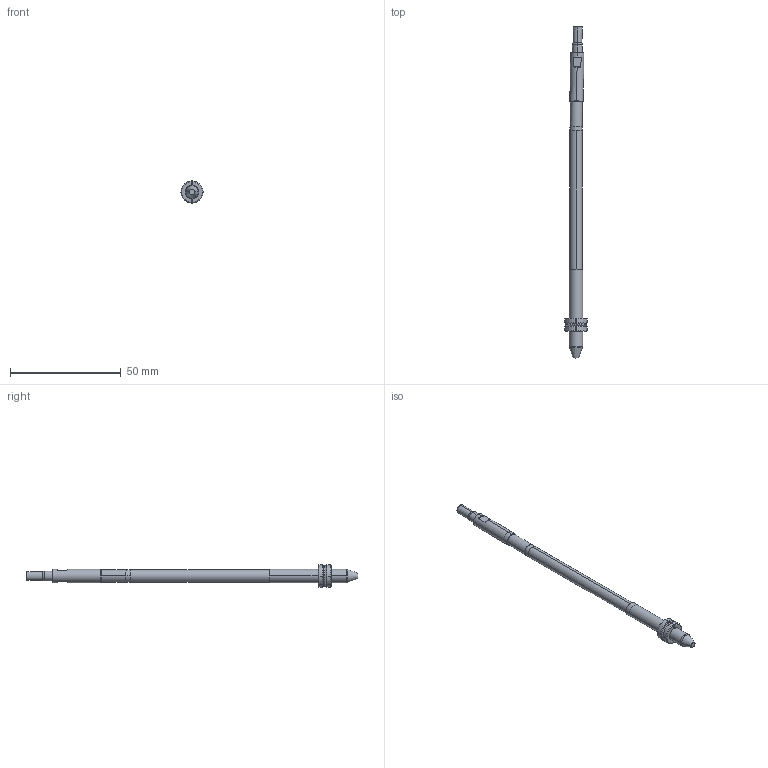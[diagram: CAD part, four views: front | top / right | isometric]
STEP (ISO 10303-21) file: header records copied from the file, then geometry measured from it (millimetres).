
FILE_DESCRIPTION (( 'STEP AP214' ), '1' );
FILE_NAME ('WP060060-OFF 1°.STEP', '2020-04-30T09:29:40', ( '' ), ( '' ), 'SwSTEP 2.0', 'SolidWorks 2019', '' );
FILE_SCHEMA (( 'AUTOMOTIVE_DESIGN' ));
Length unit declared in the file: millimetre
Products named in the file (6): WEB-008-JUNTA-JT7X1X9; WEB-002-9WP060030-2; WEB-006-9WP060030-6; WEB-007-9WP060060-F_WP060060-F-OFF 1ø; WEB-001-9WP060030-1; WP060060-OFF 1°
Assembly tree (5 placements, depth 2):
  WP060060-OFF 1°
    WEB-001-9WP060030-1
    WEB-007-9WP060060-F_WP060060-F-OFF 1ø
    WEB-002-9WP060030-2
    WEB-006-9WP060030-6
    WEB-008-JUNTA-JT7X1X9
Bounding box: 10 x 149.82 x 9.99 mm (x, y, z)
Volume: 3873.7 mm3; surface area: 3434.2 mm2
Topology: 6 solids, 6 shells, 112 faces, 262 edges, 164 vertices
Faces by surface type: cylinder 36, cone 28, plane 28, torus 20
Entity records: 3723 total; most frequent: CARTESIAN_POINT 714, DIRECTION 598, ORIENTED_EDGE 524, EDGE_CURVE 262, AXIS2_PLACEMENT_3D 256, VERTEX_POINT 164, CIRCLE 136, EDGE_LOOP 116
